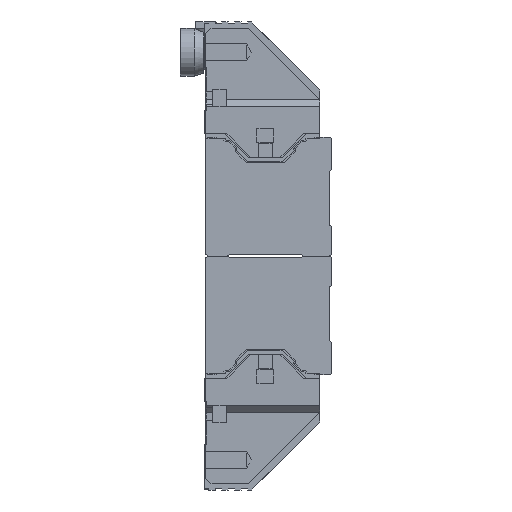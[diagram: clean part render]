
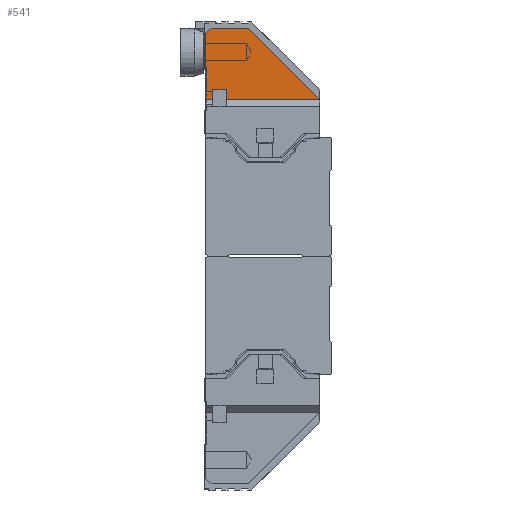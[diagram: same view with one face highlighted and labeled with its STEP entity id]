
A CAD part, left-side view. The second image highlights one B-rep face of the part: STEP entity #541.
In plain terms, the highlighted planar face has unit normal (-1, 0, 0).
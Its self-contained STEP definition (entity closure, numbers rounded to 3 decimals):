
#541 = ADVANCED_FACE( '', ( #1874 ), #1875, .T. );
#1874 = FACE_OUTER_BOUND( '', #3982, .T. );
#1875 = PLANE( '', #3983 );
#3982 = EDGE_LOOP( '', ( #7366, #7367, #7368, #7369, #7370, #7371, #7372, #7373, #7374 ) );
#3983 = AXIS2_PLACEMENT_3D( '', #7375, #7376, #7377 );
#7366 = ORIENTED_EDGE( '', *, *, #11754, .F. );
#7367 = ORIENTED_EDGE( '', *, *, #11749, .T. );
#7368 = ORIENTED_EDGE( '', *, *, #11755, .T. );
#7369 = ORIENTED_EDGE( '', *, *, #11752, .T. );
#7370 = ORIENTED_EDGE( '', *, *, #11706, .F. );
#7371 = ORIENTED_EDGE( '', *, *, #11707, .F. );
#7372 = ORIENTED_EDGE( '', *, *, #11696, .F. );
#7373 = ORIENTED_EDGE( '', *, *, #11704, .F. );
#7374 = ORIENTED_EDGE( '', *, *, #11751, .T. );
#7375 = CARTESIAN_POINT( '', ( -70.5, 24.5, 75. ) );
#7376 = DIRECTION( '', ( -1., 0., 0. ) );
#7377 = DIRECTION( '', ( 0., 0., 1. ) );
#11696 = EDGE_CURVE( '', #14111, #14113, #14114, .T. );
#11704 = EDGE_CURVE( '', #14124, #14111, #14126, .T. );
#11706 = EDGE_CURVE( '', #14127, #13968, #14129, .T. );
#11707 = EDGE_CURVE( '', #14113, #14127, #14130, .T. );
#11749 = EDGE_CURVE( '', #14191, #14193, #14195, .T. );
#11751 = EDGE_CURVE( '', #14124, #14196, #14198, .T. );
#11752 = EDGE_CURVE( '', #14199, #13968, #14200, .T. );
#11754 = EDGE_CURVE( '', #14191, #14196, #14202, .T. );
#11755 = EDGE_CURVE( '', #14193, #14199, #14203, .T. );
#13968 = VERTEX_POINT( '', #17299 );
#14111 = VERTEX_POINT( '', #17520 );
#14113 = VERTEX_POINT( '', #17523 );
#14114 = LINE( '', #17524, #17525 );
#14124 = VERTEX_POINT( '', #17541 );
#14126 = LINE( '', #17544, #17545 );
#14127 = VERTEX_POINT( '', #17546 );
#14129 = LINE( '', #17549, #17550 );
#14130 = LINE( '', #17551, #17552 );
#14191 = VERTEX_POINT( '', #17648 );
#14193 = VERTEX_POINT( '', #17651 );
#14195 = LINE( '', #17654, #17655 );
#14196 = VERTEX_POINT( '', #17656 );
#14198 = LINE( '', #17659, #17660 );
#14199 = VERTEX_POINT( '', #17661 );
#14200 = LINE( '', #17662, #17663 );
#14202 = LINE( '', #17666, #17667 );
#14203 = LINE( '', #17668, #17669 );
#17299 = CARTESIAN_POINT( '', ( -70.5, -15., 27. ) );
#17520 = CARTESIAN_POINT( '', ( -70.5, 18.5, 46.5 ) );
#17523 = CARTESIAN_POINT( '', ( -70.5, 17., 48. ) );
#17524 = CARTESIAN_POINT( '', ( -70.5, 18.5, 46.5 ) );
#17525 = VECTOR( '', #21439, 1000. );
#17541 = CARTESIAN_POINT( '', ( -70.5, 18.5, 27. ) );
#17544 = CARTESIAN_POINT( '', ( -70.5, 18.5, 17. ) );
#17545 = VECTOR( '', #21447, 1000. );
#17546 = CARTESIAN_POINT( '', ( -70.5, 6., 48. ) );
#17549 = CARTESIAN_POINT( '', ( -70.5, 6., 48. ) );
#17550 = VECTOR( '', #21449, 1000. );
#17551 = CARTESIAN_POINT( '', ( -70.5, 17., 48. ) );
#17552 = VECTOR( '', #21450, 1000. );
#17648 = CARTESIAN_POINT( '', ( -70.5, 16.5, 30. ) );
#17651 = CARTESIAN_POINT( '', ( -70.5, 12.5, 30. ) );
#17654 = CARTESIAN_POINT( '', ( -70.5, 24.5, 30. ) );
#17655 = VECTOR( '', #21500, 1000. );
#17656 = CARTESIAN_POINT( '', ( -70.5, 16.5, 27. ) );
#17659 = CARTESIAN_POINT( '', ( -70.5, 24.5, 27. ) );
#17660 = VECTOR( '', #21502, 1000. );
#17661 = CARTESIAN_POINT( '', ( -70.5, 12.5, 27. ) );
#17662 = CARTESIAN_POINT( '', ( -70.5, 24.5, 27. ) );
#17663 = VECTOR( '', #21503, 1000. );
#17666 = CARTESIAN_POINT( '', ( -70.5, 16.5, 75. ) );
#17667 = VECTOR( '', #21505, 1000. );
#17668 = CARTESIAN_POINT( '', ( -70.5, 12.5, 75. ) );
#17669 = VECTOR( '', #21506, 1000. );
#21439 = DIRECTION( '', ( 0., -0.707, 0.707 ) );
#21447 = DIRECTION( '', ( 0., 0., 1. ) );
#21449 = DIRECTION( '', ( 0., -0.707, -0.707 ) );
#21450 = DIRECTION( '', ( 0., -1., 0. ) );
#21500 = DIRECTION( '', ( 0., -1., 0. ) );
#21502 = DIRECTION( '', ( 0., -1., 0. ) );
#21503 = DIRECTION( '', ( 0., -1., 0. ) );
#21505 = DIRECTION( '', ( 0., 0., -1. ) );
#21506 = DIRECTION( '', ( 0., 0., -1. ) );
